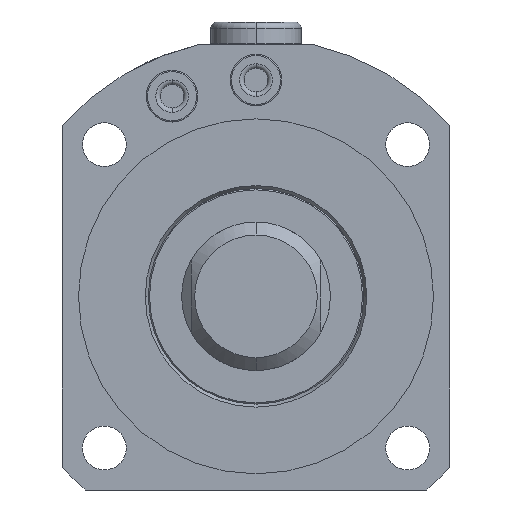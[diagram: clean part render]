
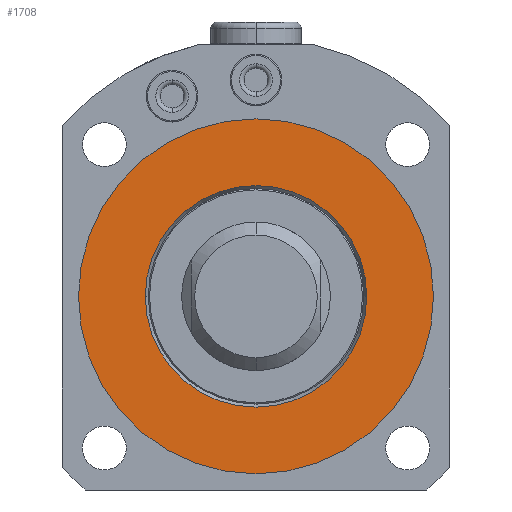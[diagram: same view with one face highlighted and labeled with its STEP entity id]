
A CAD part, front view. The second image highlights one B-rep face of the part: STEP entity #1708.
In plain terms, the highlighted planar face has unit normal (0, -1, 0).
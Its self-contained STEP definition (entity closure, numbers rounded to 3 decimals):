
#1053=PLANE('',#4410);
#1124=FACE_BOUND('',#2141,.T.);
#1125=FACE_BOUND('',#2142,.T.);
#1708=ADVANCED_FACE('',(#1124,#1125),#1053,.T.);
#2141=EDGE_LOOP('',(#2728,#2729));
#2142=EDGE_LOOP('',(#2730,#2731));
#2728=ORIENTED_EDGE('',*,*,#3648,.T.);
#2729=ORIENTED_EDGE('',*,*,#3759,.T.);
#2730=ORIENTED_EDGE('',*,*,#3642,.F.);
#2731=ORIENTED_EDGE('',*,*,#3760,.F.);
#3316=VERTEX_POINT('',#6196);
#3317=VERTEX_POINT('',#6197);
#3322=VERTEX_POINT('',#6208);
#3323=VERTEX_POINT('',#6210);
#3642=EDGE_CURVE('',#3316,#3317,#4015,.T.);
#3648=EDGE_CURVE('',#3323,#3322,#4018,.T.);
#3759=EDGE_CURVE('',#3322,#3323,#4069,.T.);
#3760=EDGE_CURVE('',#3317,#3316,#4070,.T.);
#4015=CIRCLE('',#4316,27.5);
#4018=CIRCLE('',#4320,17.162);
#4069=CIRCLE('',#4407,17.162);
#4070=CIRCLE('',#4409,27.5);
#4316=AXIS2_PLACEMENT_3D('',#6195,#4994,#4995);
#4320=AXIS2_PLACEMENT_3D('',#6209,#5005,#5006);
#4407=AXIS2_PLACEMENT_3D('',#6553,#5220,#5221);
#4409=AXIS2_PLACEMENT_3D('',#6555,#5224,#5225);
#4410=AXIS2_PLACEMENT_3D('',#6556,#5226,#5227);
#4994=DIRECTION('',(0.,1.,0.));
#4995=DIRECTION('',(-1.,0.,0.));
#5005=DIRECTION('',(0.,1.,0.));
#5006=DIRECTION('',(-1.,0.,0.));
#5220=DIRECTION('',(0.,1.,0.));
#5221=DIRECTION('',(-1.,0.,0.));
#5224=DIRECTION('',(0.,1.,0.));
#5225=DIRECTION('',(-1.,0.,0.));
#5226=DIRECTION('',(0.,-1.,0.));
#5227=DIRECTION('',(-1.,0.,0.));
#6195=CARTESIAN_POINT('',(0.,-70.,0.));
#6196=CARTESIAN_POINT('',(-27.5,-70.,0.));
#6197=CARTESIAN_POINT('',(27.5,-70.,0.));
#6208=CARTESIAN_POINT('',(-17.162,-70.,0.));
#6209=CARTESIAN_POINT('',(0.,-70.,0.));
#6210=CARTESIAN_POINT('',(17.162,-70.,0.));
#6553=CARTESIAN_POINT('',(0.,-70.,0.));
#6555=CARTESIAN_POINT('',(0.,-70.,0.));
#6556=CARTESIAN_POINT('',(-17.162,-70.,0.));
